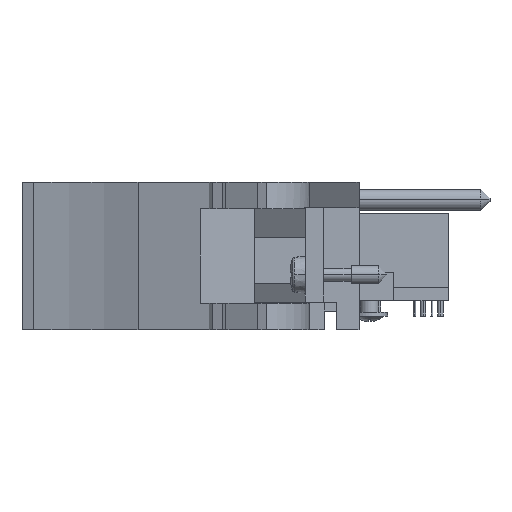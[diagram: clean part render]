
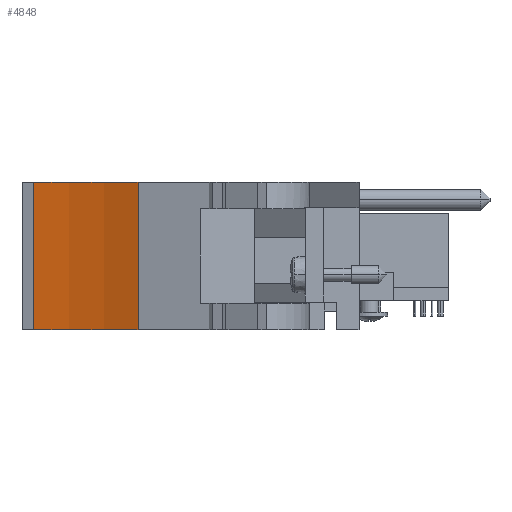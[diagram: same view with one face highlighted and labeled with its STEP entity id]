
A CAD part, front view. The second image highlights one B-rep face of the part: STEP entity #4848.
In plain terms, the highlighted cylindrical face has radius 51.46 mm (diameter 102.919 mm), a partial arc.
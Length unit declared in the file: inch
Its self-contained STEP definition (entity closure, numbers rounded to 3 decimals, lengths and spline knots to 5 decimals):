
#252=DIRECTION('',(0.,0.,1.));
#253=VECTOR('',#252,0.788);
#254=CARTESIAN_POINT('',(-1.09503,-4.12655,-0.093));
#255=LINE('',#254,#253);
#313=CARTESIAN_POINT('',(-1.97633,-5.95079,-0.093));
#314=DIRECTION('',(0.,0.,1.));
#315=DIRECTION('',(0.435,0.9,0.));
#316=AXIS2_PLACEMENT_3D('',#313,#314,#315);
#704=CARTESIAN_POINT('',(-1.97633,-5.95079,0.695));
#705=DIRECTION('',(0.,0.,1.));
#706=DIRECTION('',(0.435,0.9,0.));
#707=AXIS2_PLACEMENT_3D('',#704,#705,#706);
#1020=DIRECTION('',(0.,0.,1.));
#1021=VECTOR('',#1020,0.788);
#1022=CARTESIAN_POINT('',(-1.653,-3.95079,-0.093));
#1023=LINE('',#1022,#1021);
#3810=CARTESIAN_POINT('',(-1.09503,-4.12655,-0.093));
#3811=CARTESIAN_POINT('',(-1.653,-3.95079,-0.093));
#3812=VERTEX_POINT('',#3810);
#3813=VERTEX_POINT('',#3811);
#3814=CARTESIAN_POINT('',(-1.09503,-4.12655,0.695));
#3815=CARTESIAN_POINT('',(-1.653,-3.95079,0.695));
#3816=VERTEX_POINT('',#3814);
#3817=VERTEX_POINT('',#3815);
#4834=CARTESIAN_POINT('',(-1.97633,-5.95079,0.695));
#4835=DIRECTION('',(0.,0.,1.));
#4836=DIRECTION('',(0.,1.,0.));
#4837=AXIS2_PLACEMENT_3D('',#4834,#4835,#4836);
#4838=CYLINDRICAL_SURFACE('',#4837,2.02597);
#4840=ORIENTED_EDGE('',*,*,#4839,.T.);
#4842=ORIENTED_EDGE('',*,*,#4841,.T.);
#4844=ORIENTED_EDGE('',*,*,#4843,.F.);
#4845=ORIENTED_EDGE('',*,*,#4817,.F.);
#4846=EDGE_LOOP('',(#4840,#4842,#4844,#4845));
#4847=FACE_OUTER_BOUND('',#4846,.F.);
#4848=ADVANCED_FACE('',(#4847),#4838,.F.);
#317=CIRCLE('',#316,2.02597);
#708=CIRCLE('',#707,2.02597);
#4817=EDGE_CURVE('',#3812,#3816,#255,.T.);
#4839=EDGE_CURVE('',#3812,#3813,#317,.T.);
#4841=EDGE_CURVE('',#3813,#3817,#1023,.T.);
#4843=EDGE_CURVE('',#3816,#3817,#708,.T.);
